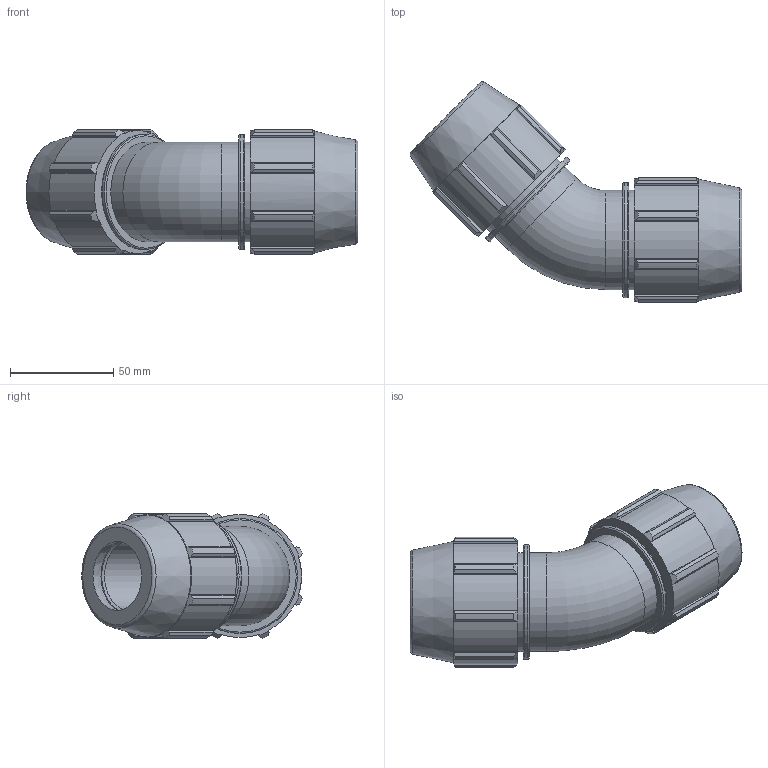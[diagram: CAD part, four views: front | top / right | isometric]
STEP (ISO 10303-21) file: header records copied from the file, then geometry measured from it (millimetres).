
FILE_DESCRIPTION(/* description */ ('PLASSON 45° ELBOW 1'''' - 1'''''),/* implementation_level */ '2;1');
FILE_NAME(/* name */ 'C:\Dropbox\KIMPROJECTS-Inventor 2019\99-16-3568-Processing Inch\ASTM Compression 2021\0706M0\0706M0010.ipt.stp',/* time_stamp */ '2021-08-26T12:32:09+03:00',/* author */ ('KIM'),/* organization */ (''),/* preprocessor_version */ 'ST-DEVELOPER v17.2',/* originating_system */ 'Autodesk Inventor 2019',/* authorisation */ '');
FILE_SCHEMA (('AUTOMOTIVE_DESIGN { 1 0 10303 214 3 1 1 }'));
Length unit declared in the file: inch
Products named in the file (1): 0706M0010
Bounding box: 160.71 x 106.75 x 60.23 mm (x, y, z)
Volume: 245672.7 mm3; surface area: 54358.3 mm2
Topology: 1 solids, 1 shells, 146 faces, 431 edges, 295 vertices
Faces by surface type: plane 74, cylinder 40, cone 24, torus 8
Full cylindrical faces by diameter (mm): 33.3 x2, 48.006 x4, 55.687 x2
Entity records: 5103 total; most frequent: CARTESIAN_POINT 1001, ORIENTED_EDGE 862, DIRECTION 820, EDGE_CURVE 431, AXIS2_PLACEMENT_3D 306, VERTEX_POINT 295, LINE 208, VECTOR 208
